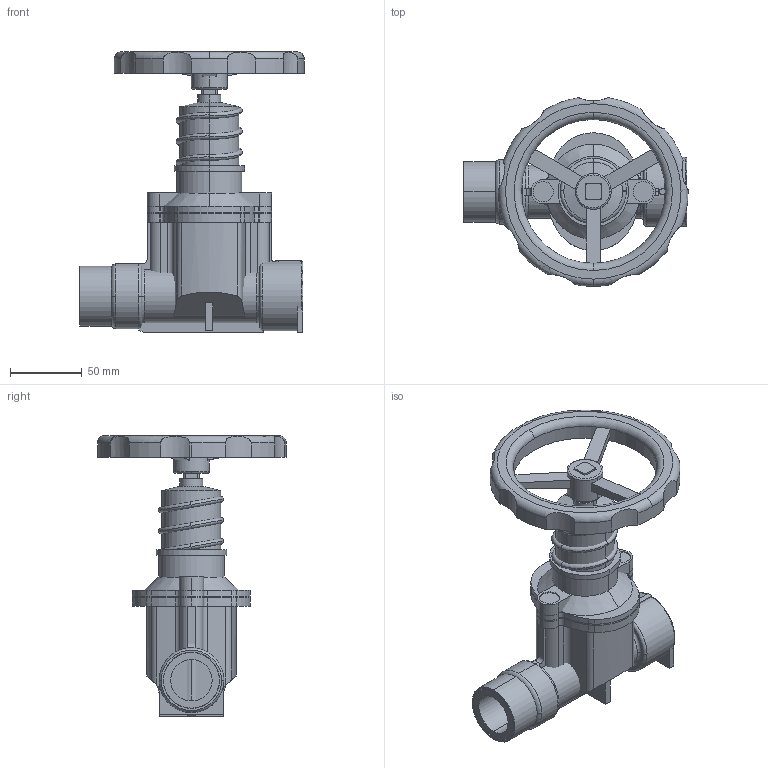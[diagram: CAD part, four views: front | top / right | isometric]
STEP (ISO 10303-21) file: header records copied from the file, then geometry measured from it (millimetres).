
FILE_DESCRIPTION(('STEP AP214'),'1');
FILE_NAME('S:/EK/USER/CAT6/3DHomepage/2520/2520-PN16-DN25-HANDRAD.STP','2012-04-25T10:03:18',(' '),(' '),'Spatial InterOp 3D',' ',' ');
FILE_SCHEMA(('automotive_design'));
Length unit declared in the file: millimetre
Products named in the file (38): 3D-Objekt
Bounding box: 156 x 131.2 x 195 mm (x, y, z)
Volume: 622033.2 mm3; surface area: 186204.8 mm2
Topology: 38 solids, 38 shells, 358 faces, 848 edges, 575 vertices
Faces by surface type: plane 161, cylinder 151, torus 42, cone 4
Entity records: 14601 total; most frequent: CARTESIAN_POINT 2093, DIRECTION 2093, ORIENTED_EDGE 1696, AXIS2_PLACEMENT_3D 859, EDGE_CURVE 848, VERTEX_POINT 575, CIRCLE 449, STYLED_ITEM 396
